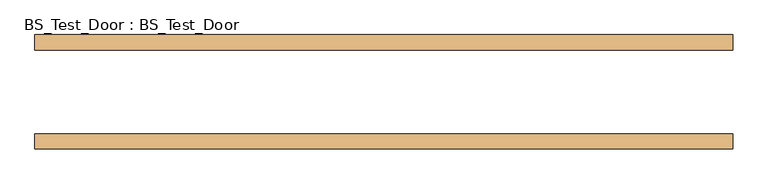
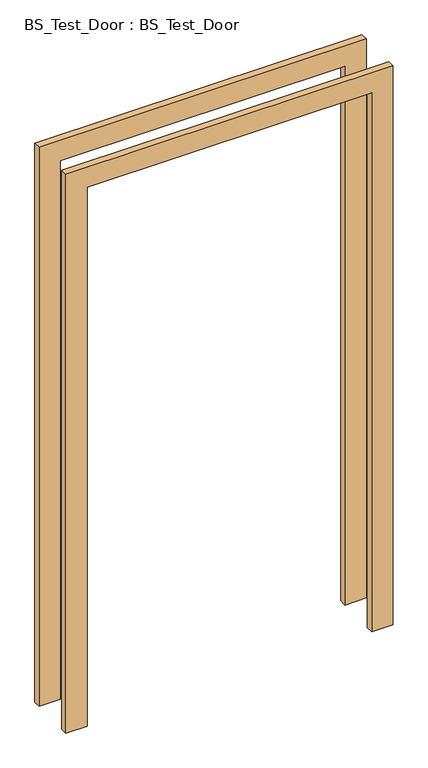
"""IFC4 building model written with IfcOpenShell, lengths in millimetres: door geometry, BS_Test_Door : BS_Test_Door."""

import ifcopenshell
import ifcopenshell.guid

model = None  # the IFC model being written
_history = None  # IfcOwnerHistory: only IFC2X3 demands one
_inside = {}  # id of a spatial element -> (the spatial element, [elements in it])
_under = {}  # id of a project, library or spatial element -> (it, [spatial elements below it])
_declared = {}  # id of a project -> (the project, [libraries it declares])
_typed = {}  # id of a type object -> (the type object, [elements of that type])
_made_of = {}  # id of a material, layer set ... -> (it, [elements and type objects made of it])


def new_model(schema):
    """Start an empty IFC model of exactly this schema.

    Asked for "IFC4X3", IfcOpenShell would pick the latest addendum, in which some entities
    have other attributes; the version numbers below select the first issue.
    IFC2X3 requires an IfcOwnerHistory on every rooted entity: one is made here for all.
    """
    global model, _history
    if schema == "IFC4X3":
        model = ifcopenshell.file(schema_version=(4, 3, 0, 0))
    else:
        model = ifcopenshell.file(schema=schema)
    _inside.clear()
    _under.clear()
    _declared.clear()
    _typed.clear()
    _made_of.clear()
    _history = None
    if model.schema == "IFC2X3":
        org = make("IfcOrganization", Name="unknown")
        user = make(
            "IfcPersonAndOrganization",
            ThePerson=make("IfcPerson", FamilyName="unknown"),
            TheOrganization=org,
        )
        app = make(
            "IfcApplication",
            ApplicationDeveloper=org,
            Version="unknown",
            ApplicationFullName="unknown",
            ApplicationIdentifier="unknown",
        )
        _history = make(
            "IfcOwnerHistory",
            OwningUser=user,
            OwningApplication=app,
            ChangeAction="ADDED",
            CreationDate=0,
        )
    return model


def make(cls, **values):
    """One entity of the class cls with the attributes given. An attribute that is None is left unset."""
    return model.create_entity(
        cls, **{name: value for name, value in values.items() if value is not None}
    )


def rooted(cls, **values):
    """An entity with a GlobalId (a new one), such as an element, a storey or a relation."""
    return make(cls, GlobalId=ifcopenshell.guid.new(), OwnerHistory=_history, **values)


def si_unit(unit_type, name, prefix=None):
    """IfcSIUnit, for example si_unit("LENGTHUNIT", "METRE", prefix="MILLI")."""
    return make("IfcSIUnit", UnitType=unit_type, Prefix=prefix, Name=name)


def assignment(units):
    """IfcUnitAssignment: the units of a project."""
    return None if units is None else make("IfcUnitAssignment", Units=units)


def point(xyz):
    """IfcCartesianPoint."""
    return None if xyz is None else make("IfcCartesianPoint", Coordinates=xyz)


def direction(xyz):
    """IfcDirection."""
    return None if xyz is None else make("IfcDirection", DirectionRatios=xyz)


def frame(location, z_axis=None, x_axis=None):
    """IfcAxis2Placement3D, a coordinate frame: its origin and axes. An axis left out is left unset."""
    return make(
        "IfcAxis2Placement3D",
        Location=point(location),
        Axis=direction(z_axis),
        RefDirection=direction(x_axis),
    )


def origin():
    """The frame at (0, 0, 0) with its axes left unset."""
    return frame((0.0, 0.0, 0.0))


def place(relative_to, where):
    """IfcLocalPlacement: puts the frame where relative to a parent placement (None: the world)."""
    return make(
        "IfcLocalPlacement", PlacementRelTo=relative_to, RelativePlacement=where
    )


def context(
    kind, dimensions, precision=None, world=None, true_north=None, identifier=None
):
    """IfcGeometricRepresentationContext, for example the 3D "Model" context."""
    return make(
        "IfcGeometricRepresentationContext",
        ContextIdentifier=identifier,
        ContextType=kind,
        CoordinateSpaceDimension=dimensions,
        Precision=precision,
        WorldCoordinateSystem=world,
        TrueNorth=true_north,
    )


def project(units=None, contexts=None):
    """IfcProject with its units and contexts."""
    return rooted(
        "IfcProject",
        Name="project",
        RepresentationContexts=contexts,
        UnitsInContext=assignment(units),
    )


def spatial(cls, under=None, at=None, **own):
    """A site, building, storey or space (cls), placed at a placement, below another one or the project."""
    s = rooted(cls, ObjectPlacement=at, **own)
    if under is not None:
        _under.setdefault(under.id(), (under, []))[1].append(s)
    return s


def polyline(points):
    """IfcPolyline through the points."""
    return make("IfcPolyline", Points=[point(p) for p in points])


def outline(outer, holes=None, kind="AREA"):
    """IfcArbitraryClosedProfileDef: a profile drawn as a closed curve; with holes, ...WithVoids."""
    if holes is None:
        return make("IfcArbitraryClosedProfileDef", ProfileType=kind, OuterCurve=outer)
    return make(
        "IfcArbitraryProfileDefWithVoids",
        ProfileType=kind,
        OuterCurve=outer,
        InnerCurves=holes,
    )


def extrude(swept, where, along, depth):
    """IfcExtrudedAreaSolid: the profile swept, set in the frame where, extruded along a direction by depth."""
    return make(
        "IfcExtrudedAreaSolid",
        SweptArea=swept,
        Position=where,
        ExtrudedDirection=direction(along),
        Depth=depth,
    )


def shape(context_of_items, identifier, shape_type, items):
    """IfcShapeRepresentation: the items that make up one representation, for example the "Body"."""
    return make(
        "IfcShapeRepresentation",
        ContextOfItems=context_of_items,
        RepresentationIdentifier=identifier,
        RepresentationType=shape_type,
        Items=items,
    )


def source(mapping_origin, context_of_items, identifier, shape_type, items):
    """IfcRepresentationMap: a shape defined once, which mapped items show again and again."""
    return make(
        "IfcRepresentationMap",
        MappingOrigin=mapping_origin,
        MappedRepresentation=shape(context_of_items, identifier, shape_type, items),
    )


def transform(
    local_origin,
    x_axis=None,
    y_axis=None,
    z_axis=None,
    scale=None,
    scale2=None,
    scale3=None,
    uniform=True,
):
    """IfcCartesianTransformationOperator3D, or its non-uniform kind. x_axis, y_axis, z_axis: its Axis1, 2, 3."""
    if uniform:
        return make(
            "IfcCartesianTransformationOperator3D",
            Axis1=direction(x_axis),
            Axis2=direction(y_axis),
            LocalOrigin=point(local_origin),
            Scale=scale,
            Axis3=direction(z_axis),
        )
    return make(
        "IfcCartesianTransformationOperator3DnonUniform",
        Axis1=direction(x_axis),
        Axis2=direction(y_axis),
        LocalOrigin=point(local_origin),
        Scale=scale,
        Axis3=direction(z_axis),
        Scale2=scale2,
        Scale3=scale3,
    )


def mapped(mapping_source, mapping_target):
    """IfcMappedItem: shows the shape of a source again, moved by a transform."""
    return make(
        "IfcMappedItem", MappingSource=mapping_source, MappingTarget=mapping_target
    )


def made_of(thing, what):
    """Note that an element or type object is made of a material, layer set ...; save() writes the relation."""
    if what is not None:
        _made_of.setdefault(what.id(), (what, []))[1].append(thing)
    return thing


def element(
    cls,
    number,
    at=None,
    inside=None,
    cuts=None,
    type_object=None,
    material=None,
    context=None,
    identifier="Body",
    shape_type=None,
    held_by="IfcProductDefinitionShape",
    body=None,
    shapes=None,
    **own,
):
    """One element of the class cls, such as IfcWall. Its Tag is "e" and its number.

    at: its placement. inside: the storey or other place that contains it. cuts: it is an
    opening in that element (IfcRelVoidsElement). A single representation is given by context,
    identifier, shape_type and body (its items); several are given by shapes. held_by: the class
    of the entity that holds the representations. save() writes the other relations.
    """
    e = rooted(cls, Tag="e%d" % number, ObjectPlacement=at, **own)
    if body is not None:
        shapes = [shape(context, identifier, shape_type, body)]
    if shapes is not None:
        e.Representation = make(held_by, Representations=shapes)
    if inside is not None:
        _inside.setdefault(inside.id(), (inside, []))[1].append(e)
    if cuts is not None:
        rooted(
            "IfcRelVoidsElement", RelatingBuildingElement=cuts, RelatedOpeningElement=e
        )
    if type_object is not None:
        _typed.setdefault(type_object.id(), (type_object, []))[1].append(e)
    return made_of(e, material)


def aggregate(whole, parts):
    """IfcRelAggregates: a whole, such as a stair, and the parts it consists of."""
    return rooted("IfcRelAggregates", RelatingObject=whole, RelatedObjects=parts)


def save(model, path):
    """Write the relations noted so far, then the file.

    IfcRelAggregates (storeys below a building ...), IfcRelContainedInSpatialStructure (elements
    in a storey), IfcRelDefinesByType, IfcRelAssociatesMaterial and IfcRelDeclares: one each for
    every whole, place, type object, material and project.
    """
    for whole, parts in _under.values():
        aggregate(whole, parts)
    for where, things in _inside.values():
        rooted(
            "IfcRelContainedInSpatialStructure",
            RelatedElements=things,
            RelatingStructure=where,
        )
    for kind, things in _typed.values():
        rooted("IfcRelDefinesByType", RelatedObjects=things, RelatingType=kind)
    for what, things in _made_of.values():
        rooted("IfcRelAssociatesMaterial", RelatedObjects=things, RelatingMaterial=what)
    for by, libraries in _declared.values():
        rooted("IfcRelDeclares", RelatingContext=by, RelatedDefinitions=libraries)
    model.write(path)


def bs_test_door_bs_test_door_506ca35c(model_context):
    return source(origin(), model_context, "Body", "SweptSolid", [
        extrude(outline(polyline([(2075.0, -575.0), (0.0, -575.0), (0.0, -500.0), (2000.0, -500.0), (2000.0, 500.0), (0.0, 500.0), (0.0, 575.0), (2075.0, 575.0), (2075.0, -575.0)])), frame((0.0, -94.25, 0.0), z_axis=(0.0, 1.0, 0.0), x_axis=(0.0, 0.0, 1.0)), (0.0, 0.0, 1.0), 25.0),
        extrude(outline(polyline([(2000.0, -500.0), (2000.0, 500.0), (0.0, 500.0), (0.0, 575.0), (2075.0, 575.0), (2075.0, -575.0), (0.0, -575.0), (0.0, -500.0), (2000.0, -500.0)])), frame((0.0, 69.25, 0.0), z_axis=(0.0, 1.0, 0.0), x_axis=(0.0, 0.0, 1.0)), (0.0, 0.0, 1.0), 25.0),
    ])


if __name__ == "__main__":
    model = new_model("IFC4")
    model_context = context("Model", 3, world=origin())
    ifc_project = project(units=[si_unit("LENGTHUNIT", "METRE", prefix="MILLI")], contexts=[model_context])
    site = spatial("IfcSite", under=ifc_project)
    building = spatial("IfcBuilding", under=site)
    placement = place(None, origin())
    bs_test_door_bs_test_door_shape = bs_test_door_bs_test_door_506ca35c(model_context)
    element("IfcDoor", 1, ObjectType="BS_Test_Door : BS_Test_Door", at=placement, inside=building, context=model_context, shape_type="MappedRepresentation", body=[
        mapped(bs_test_door_bs_test_door_shape, transform((0.0, 0.0, 0.0), x_axis=(1.0, 0.0, 0.0), y_axis=(0.0, 1.0, 0.0), z_axis=(0.0, 0.0, 1.0))),
    ])
    save(model, "model.ifc")
